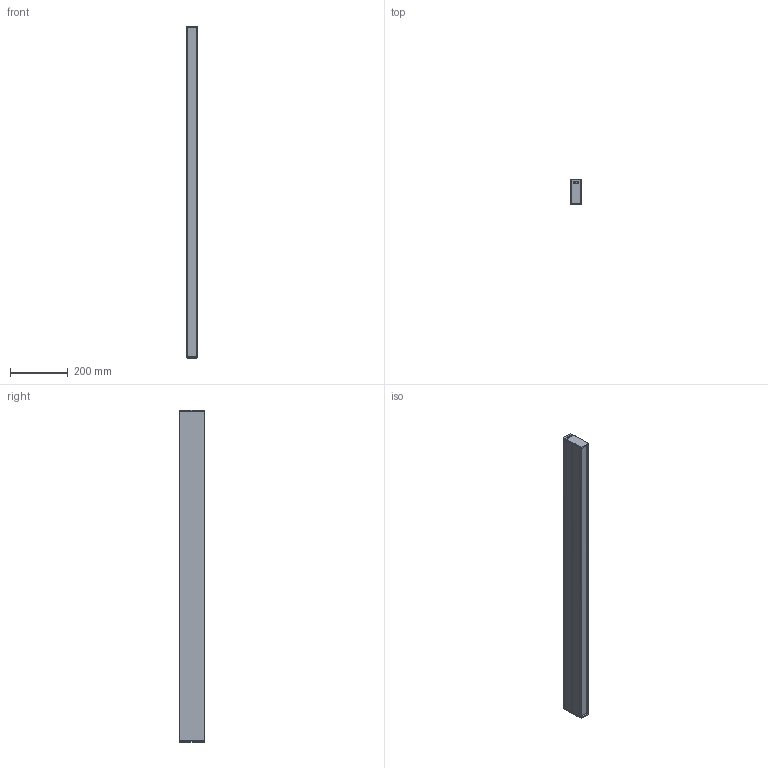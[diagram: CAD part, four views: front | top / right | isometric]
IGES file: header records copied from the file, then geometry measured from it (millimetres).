
Start section: SolidWorks IGES file using analytic representation for surfaces
Global section: file name: C:\Users\JoãoSantos\Desktop\02_3D.2D\01_2020\02_Linear\04_U35\02_Surface\U35_SURFACE_1149.IGS; native system: SolidWorks 2020; preprocessor: SolidWorks 2020; author: JoãoSantos; date: 201022.122317; units: millimetre
Bounding box: 35 x 85 x 1149 mm (x, y, z)
Surface area: 616231.6 mm2 (no closed solid volume)
Topology: 0 solids, 0 shells, 277 faces, 1824 edges, 1824 vertices
Faces by surface type: bspline 228, revolution 49
